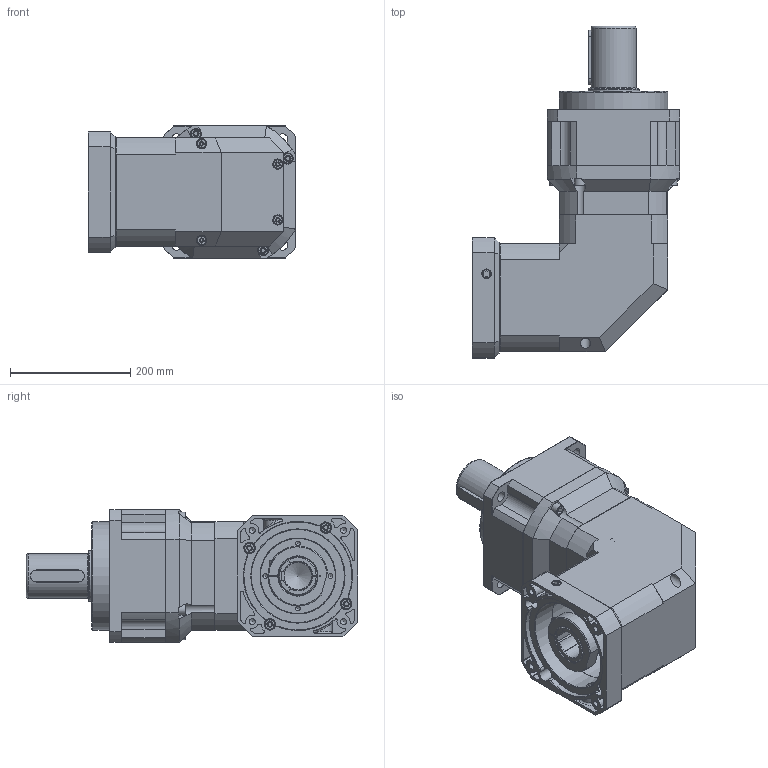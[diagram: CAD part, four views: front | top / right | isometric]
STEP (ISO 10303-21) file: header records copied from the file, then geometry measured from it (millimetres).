
FILE_DESCRIPTION((''),'2;1');
FILE_NAME('C:\Work\감속기 카다로그 도면\ATG Reducer(홈페이지)\PBL-H\STP\PBL220S-H-2.stp','2014-05-27T14:56:45',('young'),(''),'Autodesk Inventor 2012','Autodesk Inventor 2012','');
FILE_SCHEMA(('AUTOMOTIVE_DESIGN { 1 0 10303 214 1 1 1 1 }'));
Length unit declared in the file: millimetre
Products named in the file (1): PBL220S-H-2
Bounding box: 345 x 552.6 x 220 mm (x, y, z)
Volume: 10148002 mm3; surface area: 1236855 mm2
Topology: 27 solids, 29 shells, 992 faces, 2523 edges, 1640 vertices
Faces by surface type: plane 463, cylinder 288, cone 157, torus 52, bspline 18, sphere 14
Full cylindrical faces by diameter (mm): 8 x4, 8.5 x5, 10 x5, 10.2 x12, 11 x1, 12 x8, 13 x12, 14.2 x1, 14.5 x4, 15.607 x2, 16 x6, 17 x8, 18 x8, 19 x4, 38 x1, 40 x2, 46 x1, 58 x1, 65.4 x1, 70 x1, 74.7 x1, 75 x2, 81 x1, 84.8 x1, 85 x3, 87 x1, 90 x3, 93 x1, 103.4 x1, 110 x1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
Entity records: 36453 total; most frequent: CARTESIAN_POINT 13770, DIRECTION 4750, ORIENTED_EDGE 4294, EDGE_CURVE 2147, AXIS2_PLACEMENT_3D 1940, VERTEX_POINT 1549, EDGE_LOOP 1384, FACE_OUTER_BOUND 978
